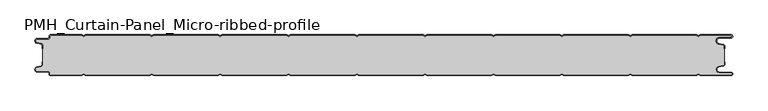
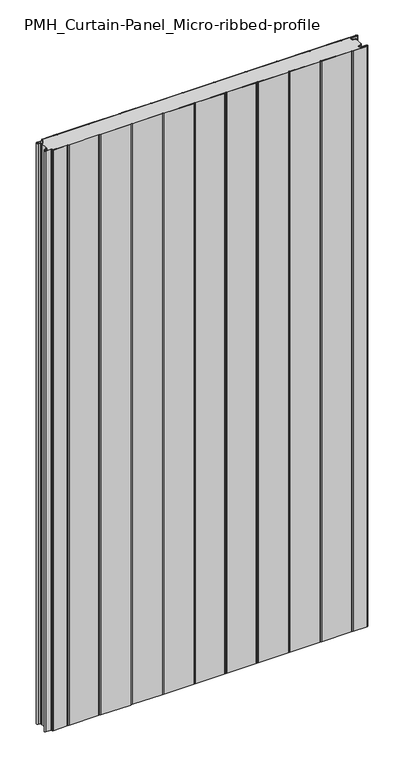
"""IFC4 building model written with IfcOpenShell, lengths in millimetres: plate geometry, PMH_Curtain-Panel_Micro-ribbed-profile : ACH_PMH_Stone-wool-Panel_60M."""

from ifc_helpers import new_model, si_unit, point, frame_2d, origin, origin_with_axes, place, context, project, spatial, polyline, circle_curve, trimmed, segment, composite_curve, outline, extrude, source, transform, mapped, element, save


def pmh_curtain_panel_micro_ribbed_profile_f6724502(model_context):
    return source(origin(), model_context, "Body", "SweptSolid", [
        extrude(outline(composite_curve([segment(trimmed(circle_curve(frame_2d((-502.0, -15.878557)), 2.0), [point((-500.0, -15.878557))], [point((-501.5500978, -13.9298169))], True, "CARTESIAN"), True, "CONTINUOUS"), segment(polyline([(-501.5500978, -13.9298169), (-507.7098239, -12.507732)]), True, "CONTINUOUS"), segment(trimmed(circle_curve(frame_2d((-506.9, -9.0)), 3.6), [point((-507.7098239, -12.507732))], [point((-506.9, -5.4))], False, "CARTESIAN"), True, "CONTINUOUS"), segment(polyline([(-506.9, -5.4), (-491.4, -5.4)]), True, "CONTINUOUS"), segment(trimmed(circle_curve(frame_2d((-491.4, -3.4)), 2.0), [point((-491.4, -5.4))], [point((-489.4, -3.4))], True, "CARTESIAN"), True, "CONTINUOUS"), segment(polyline([(-489.4, -3.4), (-489.4, -2.0)]), True, "CONTINUOUS"), segment(trimmed(circle_curve(frame_2d((-487.4, -2.0)), 2.0), [point((-489.4, -2.0))], [point((-487.4, 0.0))], False, "CARTESIAN"), True, "CONTINUOUS"), segment(polyline([(-487.4, 0.0), (-442.0999995, 0.0), (-439.4, -1.5588455), (-436.7000005, 0.0), (-342.0999995, 0.0), (-339.4, -1.5588455), (-336.7000005, 0.0), (-242.0999995, 0.0), (-239.4, -1.5588455), (-236.7000005, 0.0), (-142.0999995, 0.0), (-139.4, -1.5588455), (-136.7000005, 0.0), (-42.0999995, 0.0), (-39.4, -1.5588455), (-36.7000005, 0.0), (57.9000005, 0.0), (60.6, -1.5588455), (63.2999995, 0.0), (157.9000005, 0.0), (160.6, -1.5588455), (163.2999995, 0.0), (257.9000005, 0.0), (260.6, -1.5588455), (263.2999995, 0.0), (357.9000005, 0.0), (360.6, -1.5588455), (363.2999995, 0.0), (457.9000005, 0.0), (460.6, -1.5588455), (463.2999995, 0.0), (508.1, 0.0)]), True, "CONTINUOUS"), segment(trimmed(circle_curve(frame_2d((508.1, -2.5)), 2.5), [point((508.1, 0.0))], [point((508.1, -5.0))], False, "CARTESIAN"), True, "CONTINUOUS"), segment(polyline([(508.1, -5.0), (491.1, -5.0)]), True, "CONTINUOUS"), segment(trimmed(circle_curve(frame_2d((491.1, -9.0)), 4.0), [point((491.1, -5.0))], [point((490.405407, -12.939231))], True, "CARTESIAN"), True, "CONTINUOUS"), segment(polyline([(490.405407, -12.939231), (496.8514855, -14.0758491)]), True, "CONTINUOUS"), segment(trimmed(circle_curve(frame_2d((496.4, -16.6363492)), 2.6), [point((496.8514855, -14.0758491))], [point((499.0, -16.6363492))], False, "CARTESIAN"), True, "CONTINUOUS"), segment(polyline([(499.0, -16.6363492), (499.0, -20.0), (498.2, -20.0), (498.2, -16.6363492)]), True, "CONTINUOUS"), segment(trimmed(circle_curve(frame_2d((496.4, -16.6363492)), 1.8), [point((498.2, -16.6363492))], [point((496.7125669, -14.8636953))], True, "CARTESIAN"), True, "CONTINUOUS"), segment(polyline([(496.7125669, -14.8636953), (490.2664884, -13.7270772)]), True, "CONTINUOUS"), segment(trimmed(circle_curve(frame_2d((491.1, -9.0)), 4.8), [point((490.2664884, -13.7270772))], [point((491.1, -4.2))], False, "CARTESIAN"), True, "CONTINUOUS"), segment(polyline([(491.1, -4.2), (508.1, -4.2)]), True, "CONTINUOUS"), segment(trimmed(circle_curve(frame_2d((508.1, -2.5)), 1.7), [point((508.1, -4.2))], [point((508.1, -0.8))], True, "CARTESIAN"), True, "CONTINUOUS"), segment(polyline([(508.1, -0.8), (463.5143588, -0.8), (460.6, -2.482606), (457.6856412, -0.8), (363.5143588, -0.8), (360.6, -2.482606), (357.6856412, -0.8), (263.5143588, -0.8), (260.6, -2.482606), (257.6856412, -0.8), (163.5143588, -0.8), (160.6, -2.482606), (157.6856412, -0.8), (63.5143588, -0.8), (60.6, -2.482606), (57.6856412, -0.8), (-36.4856412, -0.8), (-39.4, -2.482606), (-42.3143588, -0.8), (-136.4856412, -0.8), (-139.4, -2.482606), (-142.3143588, -0.8), (-236.4856412, -0.8), (-239.4, -2.482606), (-242.3143588, -0.8), (-336.4856412, -0.8), (-339.4, -2.482606), (-342.3143588, -0.8), (-436.4856412, -0.8), (-439.4, -2.482606), (-442.3143588, -0.8), (-487.4, -0.8)]), True, "CONTINUOUS"), segment(trimmed(circle_curve(frame_2d((-487.4, -2.0)), 1.2), [point((-487.4, -0.8))], [point((-488.6, -2.0))], True, "CARTESIAN"), True, "CONTINUOUS"), segment(polyline([(-488.6, -2.0), (-488.6, -3.4)]), True, "CONTINUOUS"), segment(trimmed(circle_curve(frame_2d((-491.4, -3.4)), 2.8), [point((-488.6, -3.4))], [point((-491.4, -6.2))], False, "CARTESIAN"), True, "CONTINUOUS"), segment(polyline([(-491.4, -6.2), (-506.9, -6.2)]), True, "CONTINUOUS"), segment(trimmed(circle_curve(frame_2d((-506.9, -9.0)), 2.8), [point((-506.9, -6.2))], [point((-507.529863, -11.7282362))], True, "CARTESIAN"), True, "CONTINUOUS"), segment(polyline([(-507.529863, -11.7282362), (-501.370137, -13.150321)]), True, "CONTINUOUS"), segment(trimmed(circle_curve(frame_2d((-502.0, -15.878557)), 2.8), [point((-501.370137, -13.150321))], [point((-499.2, -15.878557))], False, "CARTESIAN"), True, "CONTINUOUS"), segment(polyline([(-499.2, -15.878557), (-499.2, -20.0), (-500.0, -20.0), (-500.0, -15.878557)]), True, "CONTINUOUS")], self_intersect=False)), origin_with_axes(), (0.0, 0.0, 1.0), 1945.7507136),
        extrude(outline(composite_curve([segment(polyline([(-499.2, -44.1214426), (-499.2, -15.8785573)]), True, "CONTINUOUS"), segment(trimmed(circle_curve(frame_2d((-502.0, -15.8785573)), 2.8), [point((-499.2, -15.8785573))], [point((-501.370137, -13.1503212))], True, "CARTESIAN"), True, "CONTINUOUS"), segment(polyline([(-501.370137, -13.1503212), (-507.5298631, -11.7282362)]), True, "CONTINUOUS"), segment(trimmed(circle_curve(frame_2d((-506.9, -9.0)), 2.8), [point((-507.5298631, -11.7282362))], [point((-506.9, -6.2))], False, "CARTESIAN"), True, "CONTINUOUS"), segment(polyline([(-506.9, -6.2), (-491.4000001, -6.2)]), True, "CONTINUOUS"), segment(trimmed(circle_curve(frame_2d((-491.4000001, -3.4)), 2.8), [point((-491.4000001, -6.2))], [point((-488.6000001, -3.4))], True, "CARTESIAN"), True, "CONTINUOUS"), segment(polyline([(-488.6000001, -3.4), (-488.6000001, -2.0)]), True, "CONTINUOUS"), segment(trimmed(circle_curve(frame_2d((-487.4000001, -2.0)), 1.2), [point((-488.6000001, -2.0))], [point((-487.4000001, -0.8))], False, "CARTESIAN"), True, "CONTINUOUS"), segment(polyline([(-487.4000001, -0.8), (-442.3143589, -0.8), (-439.4000001, -2.482606), (-436.4856412, -0.8), (-342.3143589, -0.8), (-339.4000001, -2.482606), (-336.4856412, -0.8), (-242.3143589, -0.8), (-239.4000001, -2.482606), (-236.4856412, -0.8), (-142.3143589, -0.8), (-139.4000001, -2.482606), (-136.4856412, -0.8), (-42.3143589, -0.8), (-39.4000001, -2.482606), (-36.4856412, -0.8), (57.6856411, -0.8), (60.5999999, -2.482606), (63.5143588, -0.8), (157.6856411, -0.8), (160.5999999, -2.482606), (163.5143588, -0.8), (257.6856411, -0.8), (260.5999999, -2.482606), (263.5143588, -0.8), (357.6856411, -0.8), (360.5999999, -2.482606), (363.5143588, -0.8), (457.6856411, -0.8), (460.5999999, -2.482606), (463.5143588, -0.8), (508.0999999, -0.8)]), True, "CONTINUOUS"), segment(trimmed(circle_curve(frame_2d((508.0999999, -2.5)), 1.7), [point((508.0999999, -0.8))], [point((508.0999999, -4.2))], False, "CARTESIAN"), True, "CONTINUOUS"), segment(polyline([(508.0999999, -4.2), (491.0999999, -4.2)]), True, "CONTINUOUS"), segment(trimmed(circle_curve(frame_2d((491.0999999, -9.0)), 4.8), [point((491.0999999, -4.2))], [point((490.2664883, -13.7270771))], True, "CARTESIAN"), True, "CONTINUOUS"), segment(polyline([(490.2664883, -13.7270771), (496.7125668, -14.8636953)]), True, "CONTINUOUS"), segment(trimmed(circle_curve(frame_2d((496.3999999, -16.6363492)), 1.8), [point((496.7125668, -14.8636953))], [point((498.1999999, -16.6363492))], False, "CARTESIAN"), True, "CONTINUOUS"), segment(polyline([(498.1999999, -16.6363492), (498.1999999, -43.3636508)]), True, "CONTINUOUS"), segment(trimmed(circle_curve(frame_2d((496.3999999, -43.3636508)), 1.8), [point((498.1999999, -43.3636508))], [point((496.7125668, -45.1363047))], False, "CARTESIAN"), True, "CONTINUOUS"), segment(polyline([(496.7125668, -45.1363047), (490.2664883, -46.2729229)]), True, "CONTINUOUS"), segment(trimmed(circle_curve(frame_2d((491.0999999, -51.0)), 4.8), [point((490.2664883, -46.2729229))], [point((491.0999999, -55.8))], True, "CARTESIAN"), True, "CONTINUOUS"), segment(polyline([(491.0999999, -55.8), (508.0999999, -55.8)]), True, "CONTINUOUS"), segment(trimmed(circle_curve(frame_2d((508.0999999, -57.5)), 1.7), [point((508.0999999, -55.8))], [point((508.0999999, -59.2))], False, "CARTESIAN"), True, "CONTINUOUS"), segment(polyline([(508.0999999, -59.2), (463.5143588, -59.2), (460.5999999, -57.517394), (457.6856411, -59.2), (363.5143588, -59.2), (360.5999999, -57.517394), (357.6856411, -59.2), (263.5143588, -59.2), (260.5999999, -57.517394), (257.6856411, -59.2), (163.5143588, -59.2), (160.5999999, -57.517394), (157.6856411, -59.2), (63.5143588, -59.2), (60.5999999, -57.517394), (57.6856411, -59.2), (-36.4856412, -59.2), (-39.4000001, -57.517394), (-42.3143589, -59.2), (-136.4856412, -59.2), (-139.4000001, -57.517394), (-142.3143589, -59.2), (-236.4856412, -59.2), (-239.4000001, -57.517394), (-242.3143589, -59.2), (-336.4856412, -59.2), (-339.4000001, -57.517394), (-342.3143589, -59.2), (-436.4856412, -59.2), (-439.4000001, -57.517394), (-442.3143589, -59.2), (-487.4000001, -59.2)]), True, "CONTINUOUS"), segment(trimmed(circle_curve(frame_2d((-487.4000001, -58.0)), 1.2), [point((-487.4000001, -59.2))], [point((-488.6000001, -58.0))], False, "CARTESIAN"), True, "CONTINUOUS"), segment(polyline([(-488.6000001, -58.0), (-488.6000001, -56.6)]), True, "CONTINUOUS"), segment(trimmed(circle_curve(frame_2d((-491.4000001, -56.6)), 2.8), [point((-488.6000001, -56.6))], [point((-491.4000001, -53.8))], True, "CARTESIAN"), True, "CONTINUOUS"), segment(polyline([(-491.4000001, -53.8), (-506.9, -53.8)]), True, "CONTINUOUS"), segment(trimmed(circle_curve(frame_2d((-506.9, -51.0)), 2.8), [point((-506.9, -53.8))], [point((-507.5298631, -48.2717638))], False, "CARTESIAN"), True, "CONTINUOUS"), segment(polyline([(-507.5298631, -48.2717638), (-501.370137, -46.8496788)]), True, "CONTINUOUS"), segment(trimmed(circle_curve(frame_2d((-502.0, -44.1214426)), 2.8), [point((-501.370137, -46.8496788))], [point((-499.2, -44.1214426))], True, "CARTESIAN"), True, "CONTINUOUS")], self_intersect=False)), origin_with_axes(), (0.0, 0.0, 1.0), 1945.7507136),
        extrude(outline(composite_curve([segment(polyline([(-500.0, -44.121443), (-500.0, -40.0), (-499.2, -40.0), (-499.2, -44.121443)]), True, "CONTINUOUS"), segment(trimmed(circle_curve(frame_2d((-502.0, -44.121443)), 2.8), [point((-499.2, -44.121443))], [point((-501.370137, -46.8496792))], False, "CARTESIAN"), True, "CONTINUOUS"), segment(polyline([(-501.370137, -46.8496792), (-507.529863, -48.271764)]), True, "CONTINUOUS"), segment(trimmed(circle_curve(frame_2d((-506.9, -51.0)), 2.8), [point((-507.529863, -48.271764))], [point((-506.9, -53.8))], True, "CARTESIAN"), True, "CONTINUOUS"), segment(polyline([(-506.9, -53.8), (-491.4, -53.8)]), True, "CONTINUOUS"), segment(trimmed(circle_curve(frame_2d((-491.4, -56.6)), 2.8), [point((-491.4, -53.8))], [point((-488.6, -56.6))], False, "CARTESIAN"), True, "CONTINUOUS"), segment(polyline([(-488.6, -56.6), (-488.6, -58.0)]), True, "CONTINUOUS"), segment(trimmed(circle_curve(frame_2d((-487.4, -58.0)), 1.2), [point((-488.6, -58.0))], [point((-487.4, -59.2))], True, "CARTESIAN"), True, "CONTINUOUS"), segment(polyline([(-487.4, -59.2), (-442.3143588, -59.2), (-439.4, -57.517394), (-436.4856412, -59.2), (-342.3143588, -59.2), (-339.4, -57.517394), (-336.4856412, -59.2), (-242.3143588, -59.2), (-239.4, -57.517394), (-236.4856412, -59.2), (-142.3143588, -59.2), (-139.4, -57.517394), (-136.4856412, -59.2), (-42.3143588, -59.2), (-39.4, -57.517394), (-36.4856412, -59.2), (57.6856412, -59.2), (60.6, -57.517394), (63.5143588, -59.2), (157.6856412, -59.2), (160.6, -57.517394), (163.5143588, -59.2), (257.6856412, -59.2), (260.6, -57.517394), (263.5143588, -59.2), (357.6856412, -59.2), (360.6, -57.517394), (363.5143588, -59.2), (457.6856412, -59.2), (460.6, -57.517394), (463.5143588, -59.2), (508.1, -59.2)]), True, "CONTINUOUS"), segment(trimmed(circle_curve(frame_2d((508.1, -57.5)), 1.7), [point((508.1, -59.2))], [point((508.1, -55.8))], True, "CARTESIAN"), True, "CONTINUOUS"), segment(polyline([(508.1, -55.8), (491.1, -55.8)]), True, "CONTINUOUS"), segment(trimmed(circle_curve(frame_2d((491.1, -51.0)), 4.8), [point((491.1, -55.8))], [point((490.2664884, -46.2729229))], False, "CARTESIAN"), True, "CONTINUOUS"), segment(polyline([(490.2664884, -46.2729229), (496.7125669, -45.1363047)]), True, "CONTINUOUS"), segment(trimmed(circle_curve(frame_2d((496.4, -43.3636508)), 1.8), [point((496.7125669, -45.1363047))], [point((498.2, -43.3636508))], True, "CARTESIAN"), True, "CONTINUOUS"), segment(polyline([(498.2, -43.3636508), (498.2, -40.0), (499.0, -40.0), (499.0, -43.3636508)]), True, "CONTINUOUS"), segment(trimmed(circle_curve(frame_2d((496.4, -43.3636508)), 2.6), [point((499.0, -43.3636508))], [point((496.8514855, -45.9241509))], False, "CARTESIAN"), True, "CONTINUOUS"), segment(polyline([(496.8514855, -45.9241509), (490.405407, -47.060769)]), True, "CONTINUOUS"), segment(trimmed(circle_curve(frame_2d((491.1, -51.0)), 4.0), [point((490.405407, -47.060769))], [point((491.1, -55.0))], True, "CARTESIAN"), True, "CONTINUOUS"), segment(polyline([(491.1, -55.0), (508.1, -55.0)]), True, "CONTINUOUS"), segment(trimmed(circle_curve(frame_2d((508.1, -57.5)), 2.5), [point((508.1, -55.0))], [point((508.1, -60.0))], False, "CARTESIAN"), True, "CONTINUOUS"), segment(polyline([(508.1, -60.0), (463.2999995, -60.0), (460.6, -58.4411545), (457.9000005, -60.0), (363.2999995, -60.0), (360.6, -58.4411545), (357.9000005, -60.0), (263.2999995, -60.0), (260.6, -58.4411545), (257.9000005, -60.0), (163.2999995, -60.0), (160.6, -58.4411545), (157.9000005, -60.0), (63.2999995, -60.0), (60.6, -58.4411545), (57.9000005, -60.0), (-36.7000005, -60.0), (-39.4, -58.4411545), (-42.0999995, -60.0), (-136.7000005, -60.0), (-139.4, -58.4411545), (-142.0999995, -60.0), (-236.7000005, -60.0), (-239.4, -58.4411545), (-242.0999995, -60.0), (-336.7000005, -60.0), (-339.4, -58.4411545), (-342.0999995, -60.0), (-436.7000005, -60.0), (-439.4, -58.4411545), (-442.0999995, -60.0), (-487.4, -60.0)]), True, "CONTINUOUS"), segment(trimmed(circle_curve(frame_2d((-487.4, -58.0)), 2.0), [point((-487.4, -60.0))], [point((-489.4, -58.0))], False, "CARTESIAN"), True, "CONTINUOUS"), segment(polyline([(-489.4, -58.0), (-489.4, -56.6)]), True, "CONTINUOUS"), segment(trimmed(circle_curve(frame_2d((-491.4, -56.6)), 2.0), [point((-489.4, -56.6))], [point((-491.4, -54.6))], True, "CARTESIAN"), True, "CONTINUOUS"), segment(polyline([(-491.4, -54.6), (-506.9, -54.6)]), True, "CONTINUOUS"), segment(trimmed(circle_curve(frame_2d((-506.9, -51.0)), 3.6), [point((-506.9, -54.6))], [point((-507.7098239, -47.4922678))], False, "CARTESIAN"), True, "CONTINUOUS"), segment(polyline([(-507.7098239, -47.4922678), (-501.5500979, -46.070183)]), True, "CONTINUOUS"), segment(trimmed(circle_curve(frame_2d((-502.0, -44.121443)), 2.0), [point((-501.5500979, -46.070183))], [point((-500.0, -44.121443))], True, "CARTESIAN"), True, "CONTINUOUS")], self_intersect=False)), origin_with_axes(), (0.0, 0.0, 1.0), 1945.7507136),
    ])


if __name__ == "__main__":
    model = new_model("IFC4")
    model_context = context("Model", 3, world=origin())
    ifc_project = project(units=[si_unit("LENGTHUNIT", "METRE", prefix="MILLI")], contexts=[model_context])
    site = spatial("IfcSite", under=ifc_project)
    building = spatial("IfcBuilding", under=site)
    placement = place(None, origin())
    pmh_curtain_panel_micro_ribbed_profile_shape = pmh_curtain_panel_micro_ribbed_profile_f6724502(model_context)
    element("IfcPlate", 1, ObjectType="PMH_Curtain-Panel_Micro-ribbed-profile : ACH_PMH_Stone-wool-Panel_60M", at=placement, inside=building, context=model_context, shape_type="MappedRepresentation", body=[
        mapped(pmh_curtain_panel_micro_ribbed_profile_shape, transform((0.0, 0.0, 0.0), x_axis=(1.0, 0.0, 0.0), y_axis=(0.0, 1.0, 0.0), z_axis=(0.0, 0.0, 1.0))),
    ])
    save(model, "model.ifc")
